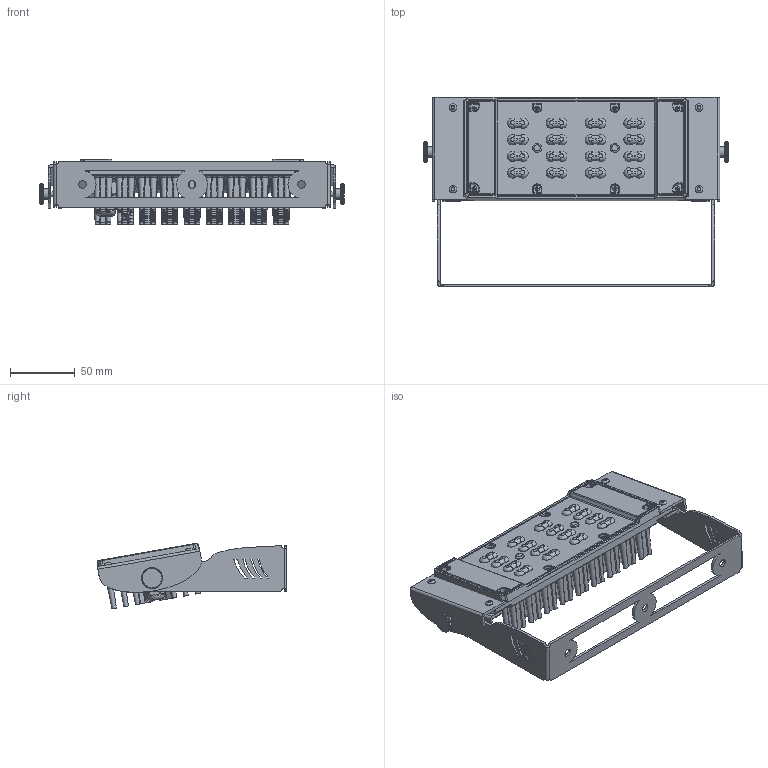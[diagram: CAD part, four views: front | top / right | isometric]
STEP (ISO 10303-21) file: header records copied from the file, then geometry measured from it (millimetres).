
FILE_DESCRIPTION(/* description */ (''),/* implementation_level */ '2;1');
FILE_NAME(/* name */ 'C:/Users/elena/OneDrive/Allegati di posta elettronica/Desktop/Cerbero m1.step',/* time_stamp */ '2020-05-08T12:38:56+02:00',/* author */ (''),/* organization */ (''),/* preprocessor_version */ 'ST-DEVELOPER v18.1',/* originating_system */ 'Autodesk Translation Framework v9.2.0.1227',/* authorisation */ '');
FILE_SCHEMA (('AUTOMOTIVE_DESIGN { 1 0 10303 214 3 1 1 }'));
Products named in the file (1): Pubblico
Bounding box: 235 x 146.4 x 50.72 mm (x, y, z)
Volume: 257827.2 mm3; surface area: 206113.1 mm2
Topology: 6 solids, 7 shells, 5848 faces, 16134 edges, 10424 vertices
Faces by surface type: plane 3311, bspline 1192, cylinder 1003, torus 310, cone 26, sphere 6
Full cylindrical faces by diameter (mm): 1.8 x2, 2.2 x2, 2.24 x8, 3.2 x9, 3.5 x5, 4 x4, 4.2 x2, 4.5 x8, 5.4 x8, 6 x3, 6.15 x2, 7 x4, 8 x4, 12.3 x2, 12.7 x1, 13 x1, 15 x1
Entity records: 262622 total; most frequent: CARTESIAN_POINT 131843, ORIENTED_EDGE 32276, DIRECTION 20831, EDGE_CURVE 16138, VERTEX_POINT 10428, AXIS2_PLACEMENT_3D 7347, B_SPLINE_CURVE_WITH_KNOTS 6171, LINE 6137
